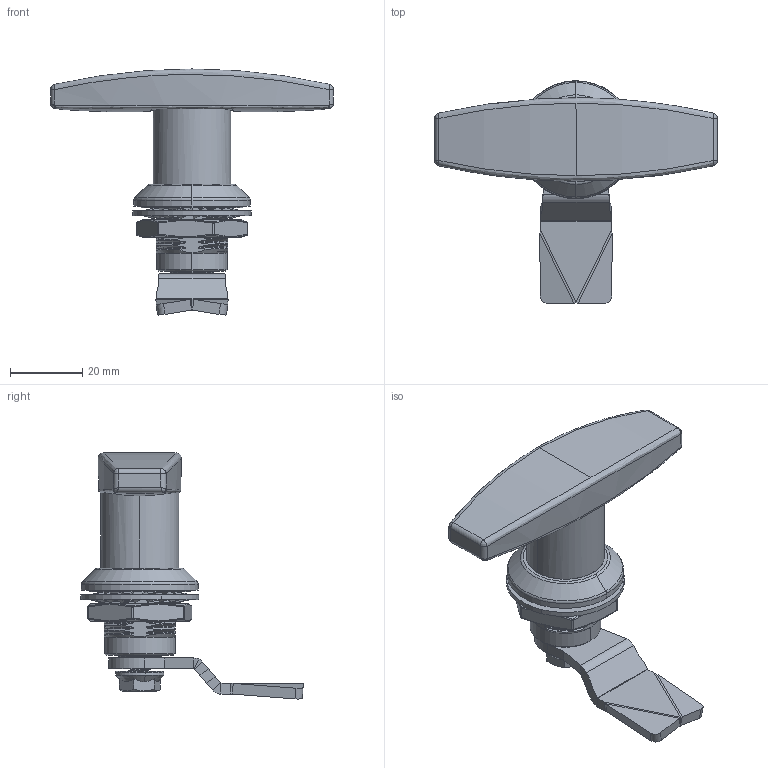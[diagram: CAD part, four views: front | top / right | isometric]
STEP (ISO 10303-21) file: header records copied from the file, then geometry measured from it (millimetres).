
FILE_DESCRIPTION (( 'STEP AP214' ), '1' );
FILE_NAME ('CUYUE B-1313-2 .STEP', '2026-06-18T08:08:47', ( '' ), ( '' ), 'SwSTEP 2.0', 'SolidWorks 2020', '' );
FILE_SCHEMA (( 'AUTOMOTIVE_DESIGN' ));
Length unit declared in the file: millimetre
Products named in the file (11): B-1307无锁芯装配体_MS101-2无锁芯_bom_sldasm.sldasm-Part-4; B-1307无锁芯装配体_MS101-2无锁芯_bom_sldasm.sldasm-Part-6; B-1307无锁芯装配体_MS101-2无锁芯_bom_sldasm.sldasm-Part-2; B-1307无锁芯装配体_MS101-2无锁芯_bom_sldasm.sldasm-Part-9; B-1307无锁芯装配体_MS101-2无锁芯_bom_sldasm.sldasm-Part-8; B-1307无锁芯装配体_MS101-2无锁芯_bom_sldasm.sldasm-Part-3; CUYUE B-1313-2 ; B-1307无锁芯装配体_MS101-2无锁芯_bom_sldasm.sldasm-Part-1; B-1307无锁芯装配体_MS101-2无锁芯_bom_sldasm.sldasm-Part-7; B-1307无锁芯装配体_MS101-2无锁芯_bom_sldasm.sldasm-Part-5; B-1307无锁芯装配体_MS101-2无锁芯_bom_sldasm.sldasm-Part-10
Assembly tree (11 placements, depth 2):
  CUYUE B-1313-2 
    B-1307无锁芯装配体_MS101-2无锁芯_bom_sldasm.sldasm-Part-1
    B-1307无锁芯装配体_MS101-2无锁芯_bom_sldasm.sldasm-Part-2  x2
    B-1307无锁芯装配体_MS101-2无锁芯_bom_sldasm.sldasm-Part-3
    B-1307无锁芯装配体_MS101-2无锁芯_bom_sldasm.sldasm-Part-4
    B-1307无锁芯装配体_MS101-2无锁芯_bom_sldasm.sldasm-Part-5
    B-1307无锁芯装配体_MS101-2无锁芯_bom_sldasm.sldasm-Part-6
    B-1307无锁芯装配体_MS101-2无锁芯_bom_sldasm.sldasm-Part-7
    B-1307无锁芯装配体_MS101-2无锁芯_bom_sldasm.sldasm-Part-8
    B-1307无锁芯装配体_MS101-2无锁芯_bom_sldasm.sldasm-Part-9
    B-1307无锁芯装配体_MS101-2无锁芯_bom_sldasm.sldasm-Part-10
Bounding box: 78 x 61.4 x 67.91 mm (x, y, z)
Volume: 30013.4 mm3; surface area: 26813.5 mm2
Topology: 11 solids, 11 shells, 1196 faces, 3168 edges, 2014 vertices
Faces by surface type: cylinder 415, plane 400, bspline 295, torus 46, cone 30, sphere 10
Entity records: 91931 total; most frequent: CARTESIAN_POINT 69981, ORIENTED_EDGE 5258, DIRECTION 3532, EDGE_CURVE 2629, VERTEX_POINT 1664, AXIS2_PLACEMENT_3D 1294, EDGE_LOOP 1051, FACE_OUTER_BOUND 1010
